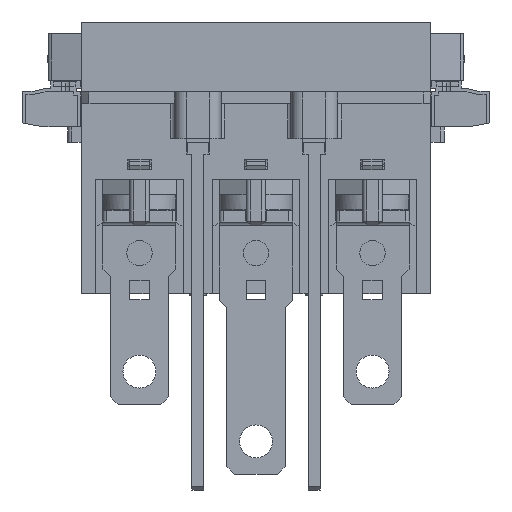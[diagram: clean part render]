
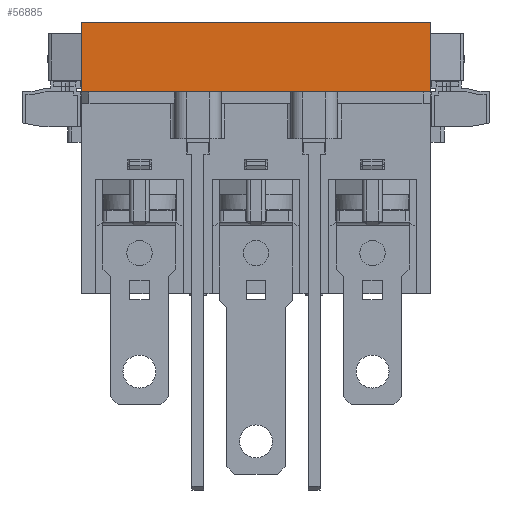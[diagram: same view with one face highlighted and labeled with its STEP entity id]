
A CAD part, front view. The second image highlights one B-rep face of the part: STEP entity #56885.
In plain terms, the highlighted planar face has unit normal (0, -1, 0).
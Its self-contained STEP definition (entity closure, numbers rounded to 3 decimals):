
#4013 = EDGE_CURVE ( 'NONE', #95947, #26875, #19954, .T. ) ;
#8796 = CARTESIAN_POINT ( 'NONE',  ( 36.709, -63.858, 70. ) ) ;
#11044 = LINE ( 'NONE', #8796, #74246 ) ;
#12179 = ORIENTED_EDGE ( 'NONE', *, *, #21494, .F. ) ;
#15015 = LINE ( 'NONE', #51424, #47729 ) ;
#17140 = CARTESIAN_POINT ( 'NONE',  ( -53.291, -63.858, 70. ) ) ;
#17845 = DIRECTION ( 'NONE',  ( -1., 0., 0. ) ) ;
#19521 = LINE ( 'NONE', #21635, #121417 ) ;
#19954 = LINE ( 'NONE', #34905, #73242 ) ;
#21494 = EDGE_CURVE ( 'NONE', #62270, #105482, #19521, .T. ) ;
#21635 = CARTESIAN_POINT ( 'NONE',  ( -53.291, -63.858, 70. ) ) ;
#26875 = VERTEX_POINT ( 'NONE', #58227 ) ;
#34905 = CARTESIAN_POINT ( 'NONE',  ( 40.314, -63.858, 52. ) ) ;
#35799 = EDGE_CURVE ( 'NONE', #105482, #95947, #11044, .T. ) ;
#38456 = PLANE ( 'NONE',  #47136 ) ;
#47136 = AXIS2_PLACEMENT_3D ( 'NONE', #17140, #91871, #51330 ) ;
#47729 = VECTOR ( 'NONE', #130282, 1000. ) ;
#51330 = DIRECTION ( 'NONE',  ( 0., 0., 1. ) ) ;
#51424 = CARTESIAN_POINT ( 'NONE',  ( -53.291, -63.858, 70. ) ) ;
#52869 = CARTESIAN_POINT ( 'NONE',  ( -53.291, -63.858, 70. ) ) ;
#56579 = EDGE_LOOP ( 'NONE', ( #77273, #129387, #12179, #124948 ) ) ;
#56885 = ADVANCED_FACE ( 'NONE', ( #125863 ), #38456, .F. ) ;
#58227 = CARTESIAN_POINT ( 'NONE',  ( -53.291, -63.858, 52. ) ) ;
#62270 = VERTEX_POINT ( 'NONE', #52869 ) ;
#72880 = DIRECTION ( 'NONE',  ( 0., 0., -1. ) ) ;
#73242 = VECTOR ( 'NONE', #17845, 1000. ) ;
#74246 = VECTOR ( 'NONE', #72880, 1000. ) ;
#77273 = ORIENTED_EDGE ( 'NONE', *, *, #4013, .F. ) ;
#82860 = CARTESIAN_POINT ( 'NONE',  ( 36.709, -63.858, 52. ) ) ;
#91871 = DIRECTION ( 'NONE',  ( 0., 1., 0. ) ) ;
#95947 = VERTEX_POINT ( 'NONE', #82860 ) ;
#102799 = DIRECTION ( 'NONE',  ( 1., 0., 0. ) ) ;
#105482 = VERTEX_POINT ( 'NONE', #122959 ) ;
#121417 = VECTOR ( 'NONE', #102799, 1000. ) ;
#121762 = EDGE_CURVE ( 'NONE', #62270, #26875, #15015, .T. ) ;
#122959 = CARTESIAN_POINT ( 'NONE',  ( 36.709, -63.858, 70. ) ) ;
#124948 = ORIENTED_EDGE ( 'NONE', *, *, #121762, .T. ) ;
#125863 = FACE_OUTER_BOUND ( 'NONE', #56579, .T. ) ;
#129387 = ORIENTED_EDGE ( 'NONE', *, *, #35799, .F. ) ;
#130282 = DIRECTION ( 'NONE',  ( 0., 0., -1. ) ) ;
